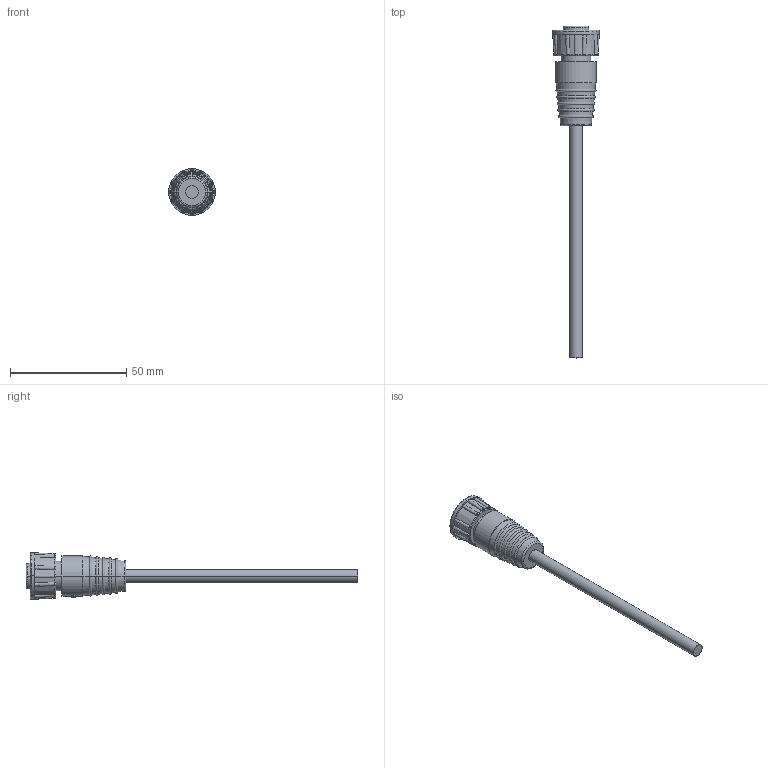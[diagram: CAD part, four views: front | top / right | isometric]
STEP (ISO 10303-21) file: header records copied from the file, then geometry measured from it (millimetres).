
FILE_DESCRIPTION((''),'2;1');
FILE_NAME('ABB-04BFFM-SL7AXX_SW0001','2016-06-13T',('KS7307'),(''),'PRO/ENGINEER BY PARAMETRIC TECHNOLOGY CORPORATION, 2013050','PRO/ENGINEER BY PARAMETRIC TECHNOLOGY CORPORATION, 2013050','');
FILE_SCHEMA(('CONFIG_CONTROL_DESIGN'));
Length unit declared in the file: millimetre
Products named in the file (1): ABB-04BFFM-SL7AXX_SW0001
Bounding box: 20 x 143 x 20 mm (x, y, z)
Volume: 10780.2 mm3; surface area: 6672.3 mm2
Topology: 2 solids, 2 shells, 451 faces, 1185 edges, 752 vertices
Faces by surface type: plane 146, bspline 130, cylinder 63, extrusion 56, cone 36, torus 19, sphere 1
Entity records: 30998 total; most frequent: CARTESIAN_POINT 18943, ORIENTED_EDGE 2366, DIRECTION 1628, EDGE_CURVE 1183, VERTEX_POINT 752, AXIS2_PLACEMENT_3D 585, B_SPLINE_CURVE_WITH_KNOTS 517, EDGE_LOOP 473
